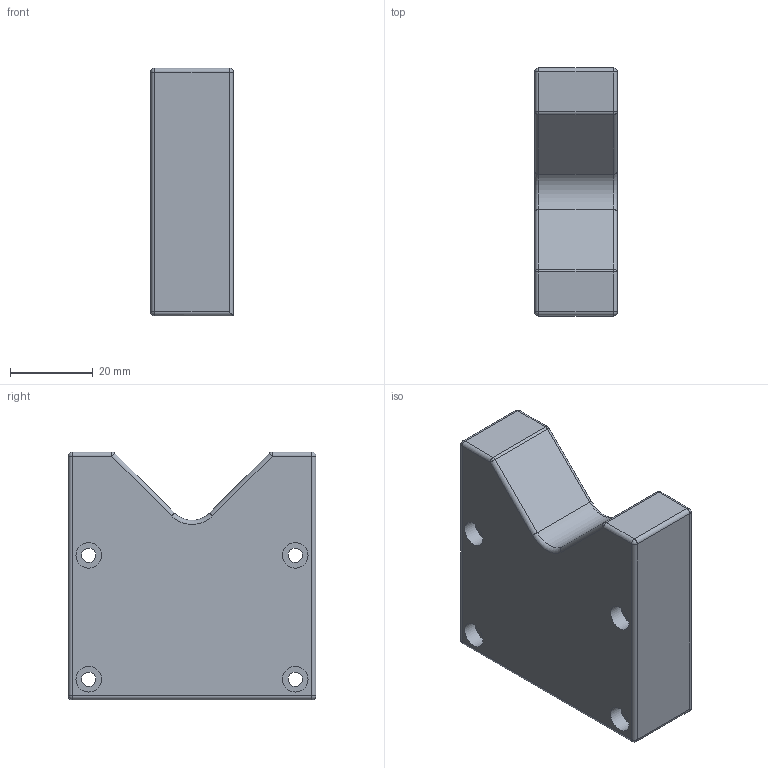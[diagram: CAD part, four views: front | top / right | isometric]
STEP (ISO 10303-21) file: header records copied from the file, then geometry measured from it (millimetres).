
FILE_DESCRIPTION(/* description */ (''),/* implementation_level */ '2;1');
FILE_NAME(/* name */ 'Z:\Flow\Inventor\Spritzenpumpe\Spritzenpumpe Abschluss.stp',/* time_stamp */ '2018-09-10T16:02:27+02:00',/* author */ ('JN'),/* organization */ (''),/* preprocessor_version */ 'ST-DEVELOPER v16.13',/* originating_system */ 'Autodesk Inventor 2018',/* authorisation */ '');
FILE_SCHEMA (('AUTOMOTIVE_DESIGN { 1 0 10303 214 3 1 1 }'));
Length unit declared in the file: millimetre
Products named in the file (1): Spritzenpumpe Abschluss
Bounding box: 20 x 60 x 60 mm (x, y, z)
Volume: 63764.3 mm3; surface area: 12249.4 mm2
Topology: 1 solids, 1 shells, 53 faces, 105 edges, 58 vertices
Faces by surface type: cylinder 28, plane 13, sphere 10, torus 2
Full cylindrical faces by diameter (mm): 3.5 x4, 6.2 x4
Entity records: 1362 total; most frequent: DIRECTION 261, CARTESIAN_POINT 209, ORIENTED_EDGE 194, AXIS2_PLACEMENT_3D 110, EDGE_CURVE 97, EDGE_LOOP 73, VERTEX_POINT 58, CIRCLE 54
